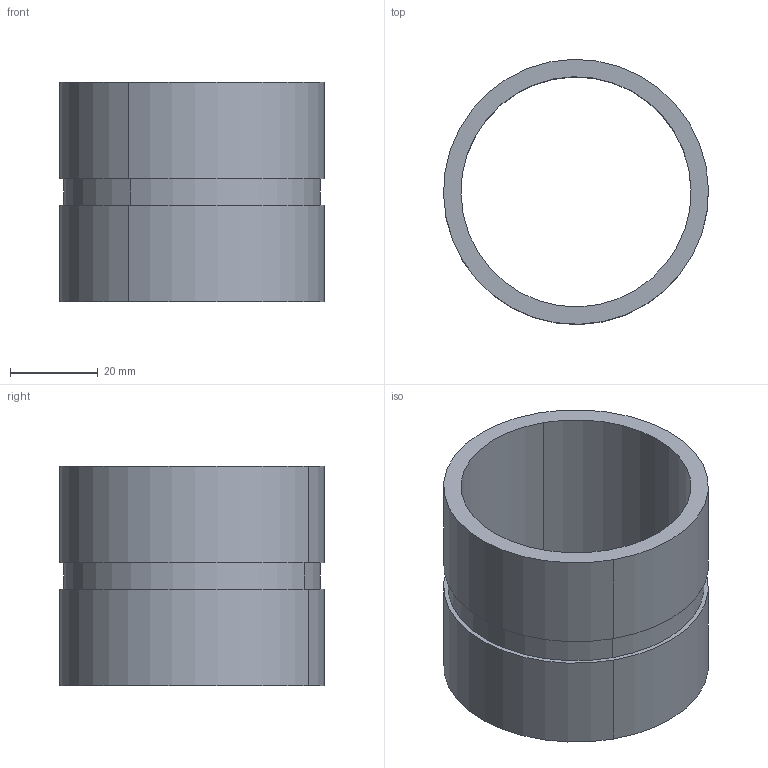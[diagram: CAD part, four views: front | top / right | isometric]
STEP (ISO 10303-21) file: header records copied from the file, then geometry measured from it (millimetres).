
FILE_DESCRIPTION(('CATIA V5 STEP Exchange'),'2;1');
FILE_NAME('C:\Users\Utente\Desktop\3D files 395H FCA\395H 19-232-0200.stp','2020-04-09T13:53:30+00:00',('none'),('none'),'CATIA Version 5 Release 20 GA (IN-10)','CATIA V5 STEP AP203','none');
FILE_SCHEMA(('CONFIG_CONTROL_DESIGN'));
Length unit declared in the file: millimetre
Products named in the file (1): 395H 19-232-0200
Bounding box: 60.31 x 60.31 x 50 mm (x, y, z)
Volume: 33986.9 mm3; surface area: 19446.9 mm2
Topology: 1 solids, 1 shells, 12 faces, 27 edges, 23 vertices
Faces by surface type: cylinder 8, plane 4
Entity records: 375 total; most frequent: CARTESIAN_POINT 61, ORIENTED_EDGE 48, DIRECTION 47, AXIS2_PLACEMENT_3D 27, EDGE_CURVE 24, CIRCLE 16, EDGE_LOOP 16, VERTEX_POINT 16
